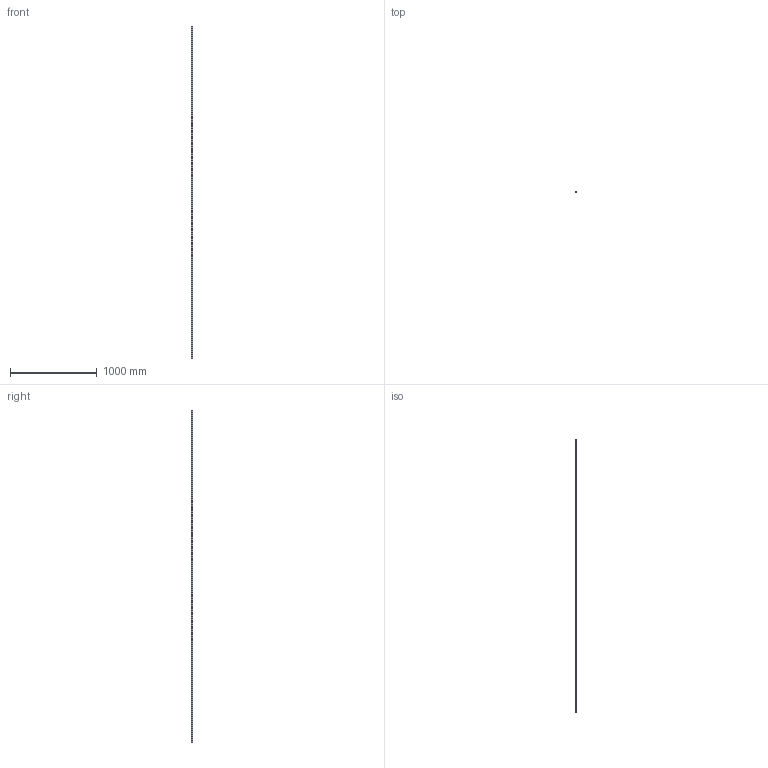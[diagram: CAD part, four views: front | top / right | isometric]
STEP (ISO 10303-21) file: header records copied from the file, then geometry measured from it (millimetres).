
FILE_DESCRIPTION((''),'2;1');
FILE_NAME('R160510431_3836_ASM','2018-08-08T15:47:47',('ac91sw'),(''),'CREO PARAMETRIC BY PTC INC, 2017260','CREO PARAMETRIC BY PTC INC, 2017260','');
FILE_SCHEMA(('CONFIG_CONTROL_DESIGN'));
Length unit declared in the file: millimetre
Products named in the file (3): R160510431_3836_ADK; R160510431_3836_1; R160510431_3836_ASM
Assembly tree (65 placements, depth 2):
  R160510431_3836_ASM
    R160510431_3836_ADK  x64
    R160510431_3836_1
Bounding box: 15 x 16.2 x 3836 mm (x, y, z)
Volume: 723156.7 mm3; surface area: 278850.7 mm2
Topology: 65 solids, 65 shells, 608 faces, 1242 edges, 828 vertices
Faces by surface type: cylinder 388, plane 220
Entity records: 11560 total; most frequent: DIRECTION 2236, CARTESIAN_POINT 1864, ORIENTED_EDGE 1728, AXIS2_PLACEMENT_3D 948, EDGE_CURVE 864, VERTEX_POINT 576, EDGE_LOOP 548, CIRCLE 524
